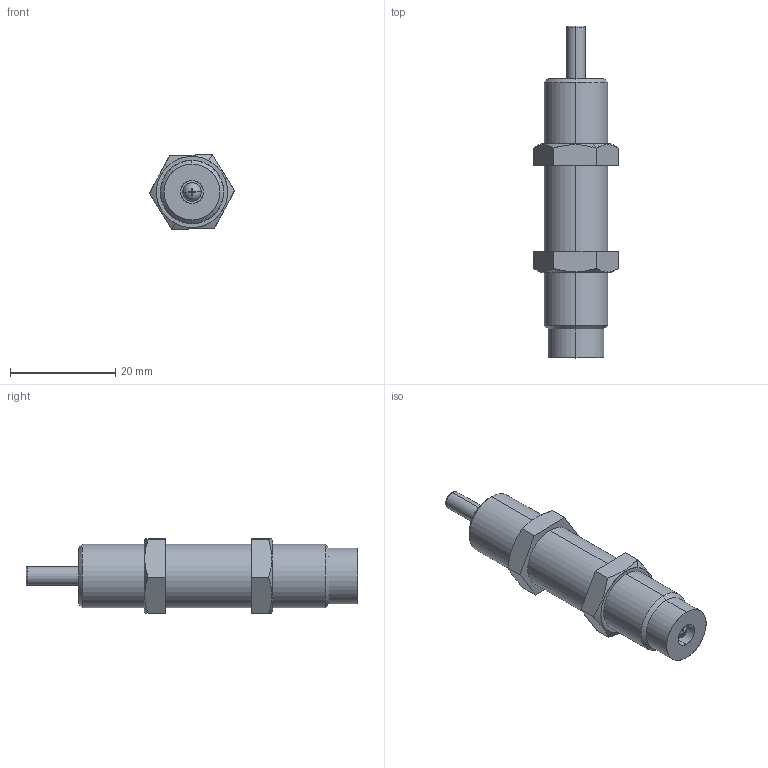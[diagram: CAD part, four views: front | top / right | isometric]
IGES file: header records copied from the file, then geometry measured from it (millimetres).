
Start section: SolidWorks IGES file using analytic representation for surfaces
Bounding box: 16.16 x 63 x 14.23 mm (x, y, z)
Surface area: 3319.7 mm2 (no closed solid volume)
Topology: 0 solids, 0 shells, 74 faces, 1134 edges, 1134 vertices
Faces by surface type: revolution 38, bspline 36
